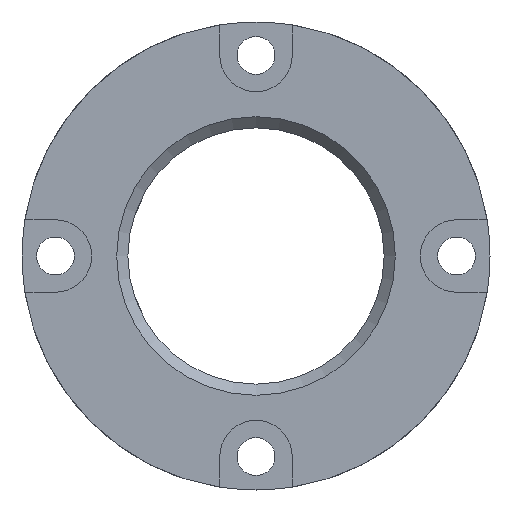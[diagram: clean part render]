
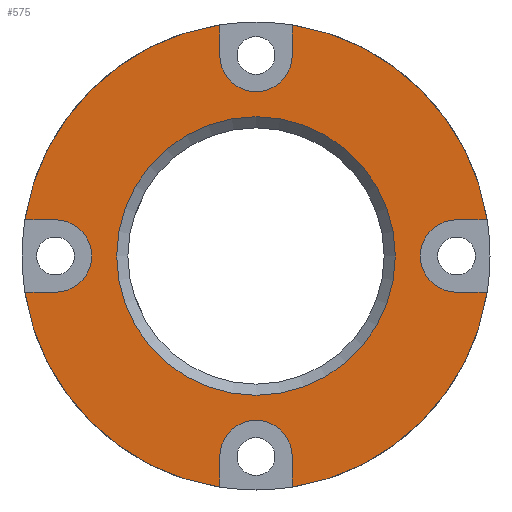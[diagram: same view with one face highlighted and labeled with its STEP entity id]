
A CAD part, left-side view. The second image highlights one B-rep face of the part: STEP entity #575.
In plain terms, the highlighted planar face has unit normal (-1, 0, 0).
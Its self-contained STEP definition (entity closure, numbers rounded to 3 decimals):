
#26=FACE_BOUND('',#137,.T.);
#35=CIRCLE('',#612,3.25);
#37=CIRCLE('',#615,3.25);
#39=CIRCLE('',#618,3.25);
#41=CIRCLE('',#623,3.25);
#56=CIRCLE('',#647,21.);
#57=CIRCLE('',#648,21.);
#58=CIRCLE('',#649,21.);
#59=CIRCLE('',#650,21.);
#60=CIRCLE('',#652,12.5);
#103=FACE_OUTER_BOUND('',#136,.T.);
#136=EDGE_LOOP('',(#493,#494,#495,#496,#497,#498,#499,#500,#501,#502,#503,
#504,#505,#506,#507,#508));
#137=EDGE_LOOP('',(#509));
#152=LINE('',#846,#195);
#156=LINE('',#855,#199);
#160=LINE('',#864,#203);
#164=LINE('',#873,#207);
#168=LINE('',#882,#211);
#172=LINE('',#891,#215);
#176=LINE('',#909,#219);
#180=LINE('',#918,#223);
#195=VECTOR('',#673,10.);
#199=VECTOR('',#679,10.);
#203=VECTOR('',#685,10.);
#207=VECTOR('',#691,10.);
#211=VECTOR('',#697,10.);
#215=VECTOR('',#703,10.);
#219=VECTOR('',#727,10.);
#223=VECTOR('',#733,10.);
#238=VERTEX_POINT('',#843);
#239=VERTEX_POINT('',#845);
#242=VERTEX_POINT('',#852);
#243=VERTEX_POINT('',#854);
#246=VERTEX_POINT('',#861);
#247=VERTEX_POINT('',#863);
#250=VERTEX_POINT('',#870);
#251=VERTEX_POINT('',#872);
#254=VERTEX_POINT('',#879);
#255=VERTEX_POINT('',#881);
#258=VERTEX_POINT('',#888);
#259=VERTEX_POINT('',#890);
#262=VERTEX_POINT('',#906);
#263=VERTEX_POINT('',#908);
#266=VERTEX_POINT('',#915);
#267=VERTEX_POINT('',#917);
#278=VERTEX_POINT('',#966);
#293=EDGE_CURVE('',#239,#238,#152,.T.);
#297=EDGE_CURVE('',#243,#242,#156,.T.);
#301=EDGE_CURVE('',#247,#246,#160,.T.);
#305=EDGE_CURVE('',#251,#250,#164,.T.);
#309=EDGE_CURVE('',#255,#254,#168,.T.);
#313=EDGE_CURVE('',#259,#258,#172,.T.);
#316=EDGE_CURVE('',#238,#243,#35,.T.);
#318=EDGE_CURVE('',#246,#251,#37,.T.);
#320=EDGE_CURVE('',#254,#259,#39,.T.);
#323=EDGE_CURVE('',#263,#262,#176,.T.);
#327=EDGE_CURVE('',#267,#266,#180,.T.);
#330=EDGE_CURVE('',#262,#267,#41,.T.);
#350=EDGE_CURVE('',#247,#242,#56,.T.);
#351=EDGE_CURVE('',#239,#266,#57,.T.);
#352=EDGE_CURVE('',#263,#258,#58,.T.);
#353=EDGE_CURVE('',#255,#250,#59,.T.);
#354=EDGE_CURVE('',#278,#278,#60,.T.);
#493=ORIENTED_EDGE('',*,*,#293,.T.);
#494=ORIENTED_EDGE('',*,*,#316,.T.);
#495=ORIENTED_EDGE('',*,*,#297,.T.);
#496=ORIENTED_EDGE('',*,*,#350,.F.);
#497=ORIENTED_EDGE('',*,*,#301,.T.);
#498=ORIENTED_EDGE('',*,*,#318,.T.);
#499=ORIENTED_EDGE('',*,*,#305,.T.);
#500=ORIENTED_EDGE('',*,*,#353,.F.);
#501=ORIENTED_EDGE('',*,*,#309,.T.);
#502=ORIENTED_EDGE('',*,*,#320,.T.);
#503=ORIENTED_EDGE('',*,*,#313,.T.);
#504=ORIENTED_EDGE('',*,*,#352,.F.);
#505=ORIENTED_EDGE('',*,*,#323,.T.);
#506=ORIENTED_EDGE('',*,*,#330,.T.);
#507=ORIENTED_EDGE('',*,*,#327,.T.);
#508=ORIENTED_EDGE('',*,*,#351,.F.);
#509=ORIENTED_EDGE('',*,*,#354,.F.);
#549=PLANE('',#657);
#575=ADVANCED_FACE('',(#103,#26),#549,.T.);
#612=AXIS2_PLACEMENT_3D('',#895,#709,#710);
#615=AXIS2_PLACEMENT_3D('',#898,#715,#716);
#618=AXIS2_PLACEMENT_3D('',#901,#721,#722);
#623=AXIS2_PLACEMENT_3D('',#922,#739,#740);
#647=AXIS2_PLACEMENT_3D('',#961,#792,#793);
#648=AXIS2_PLACEMENT_3D('',#962,#794,#795);
#649=AXIS2_PLACEMENT_3D('',#963,#796,#797);
#650=AXIS2_PLACEMENT_3D('',#964,#798,#799);
#652=AXIS2_PLACEMENT_3D('',#967,#802,#803);
#657=AXIS2_PLACEMENT_3D('',#1019,#815,#816);
#673=DIRECTION('',(0.,0.,1.));
#679=DIRECTION('',(0.,0.,-1.));
#685=DIRECTION('',(0.,1.,0.));
#691=DIRECTION('',(0.,-1.,0.));
#697=DIRECTION('',(0.,0.,-1.));
#703=DIRECTION('',(0.,0.,1.));
#709=DIRECTION('center_axis',(1.,0.,0.));
#710=DIRECTION('ref_axis',(0.,0.,1.));
#715=DIRECTION('center_axis',(1.,0.,0.));
#716=DIRECTION('ref_axis',(0.,0.,1.));
#721=DIRECTION('center_axis',(1.,0.,0.));
#722=DIRECTION('ref_axis',(0.,0.,1.));
#727=DIRECTION('',(0.,-1.,0.));
#733=DIRECTION('',(0.,1.,0.));
#739=DIRECTION('center_axis',(1.,0.,0.));
#740=DIRECTION('ref_axis',(0.,0.,1.));
#792=DIRECTION('center_axis',(1.,0.,0.));
#793=DIRECTION('ref_axis',(0.,1.,0.));
#794=DIRECTION('center_axis',(1.,0.,0.));
#795=DIRECTION('ref_axis',(0.,1.,0.));
#796=DIRECTION('center_axis',(1.,0.,0.));
#797=DIRECTION('ref_axis',(0.,1.,0.));
#798=DIRECTION('center_axis',(1.,0.,0.));
#799=DIRECTION('ref_axis',(0.,1.,0.));
#802=DIRECTION('center_axis',(-1.,0.,0.));
#803=DIRECTION('ref_axis',(0.,1.,0.));
#815=DIRECTION('center_axis',(-1.,0.,0.));
#816=DIRECTION('ref_axis',(0.,0.,1.));
#843=CARTESIAN_POINT('',(0.,3.25,-18.));
#845=CARTESIAN_POINT('',(0.,3.25,-20.747));
#846=CARTESIAN_POINT('',(0.,3.25,-10.373));
#852=CARTESIAN_POINT('',(0.,-3.25,-20.747));
#854=CARTESIAN_POINT('',(0.,-3.25,-18.));
#855=CARTESIAN_POINT('',(0.,-3.25,-9.));
#861=CARTESIAN_POINT('',(0.,-18.,-3.25));
#863=CARTESIAN_POINT('',(0.,-20.747,-3.25));
#864=CARTESIAN_POINT('',(0.,-5.123,-3.25));
#870=CARTESIAN_POINT('',(0.,-20.747,3.25));
#872=CARTESIAN_POINT('',(0.,-18.,3.25));
#873=CARTESIAN_POINT('',(0.,-3.75,3.25));
#879=CARTESIAN_POINT('',(0.,-3.25,18.));
#881=CARTESIAN_POINT('',(0.,-3.25,20.747));
#882=CARTESIAN_POINT('',(0.,-3.25,10.373));
#888=CARTESIAN_POINT('',(0.,3.25,20.747));
#890=CARTESIAN_POINT('',(0.,3.25,18.));
#891=CARTESIAN_POINT('',(0.,3.25,9.));
#895=CARTESIAN_POINT('Origin',(0.,0.,
-18.));
#898=CARTESIAN_POINT('Origin',(0.,-18.,0.));
#901=CARTESIAN_POINT('Origin',(0.,0.,
18.));
#906=CARTESIAN_POINT('',(0.,18.,3.25));
#908=CARTESIAN_POINT('',(0.,20.747,3.25));
#909=CARTESIAN_POINT('',(0.,15.623,3.25));
#915=CARTESIAN_POINT('',(0.,20.747,-3.25));
#917=CARTESIAN_POINT('',(0.,18.,-3.25));
#918=CARTESIAN_POINT('',(0.,14.25,-3.25));
#922=CARTESIAN_POINT('Origin',(0.,18.,0.));
#961=CARTESIAN_POINT('Origin',(0.,0.,
0.));
#962=CARTESIAN_POINT('Origin',(0.,0.,
0.));
#963=CARTESIAN_POINT('Origin',(0.,0.,
0.));
#964=CARTESIAN_POINT('Origin',(0.,0.,
0.));
#966=CARTESIAN_POINT('',(0.,-12.5,0.));
#967=CARTESIAN_POINT('Origin',(0.,0.,
0.));
#1019=CARTESIAN_POINT('Origin',(0.,10.5,0.));
